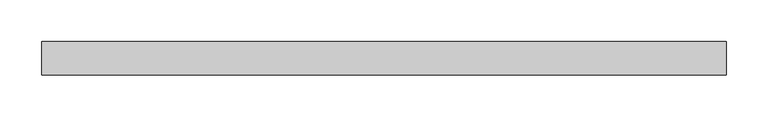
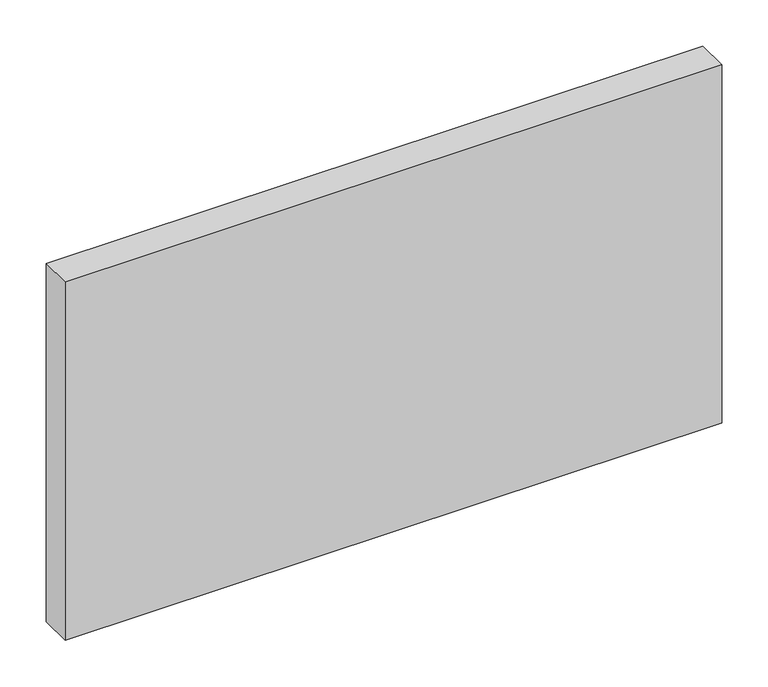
"""IFC4 building model written with IfcOpenShell, lengths in millimetres: plate geometry, Panneau système vide : Epaiss. 4cm."""

from ifc_helpers import new_model, si_unit, origin, origin_with_axes, place, context, project, spatial, polyline, outline, extrude, source, transform, mapped, element, save


def plate_d3a8c1f5(model_context):
    return source(origin(), model_context, "Body", "SweptSolid", [
        extrude(outline(polyline([(408.15, -20.0), (-408.15, -20.0), (-408.15, 20.0), (408.15, 20.0), (408.15, -20.0)])), origin_with_axes(), (0.0, 0.0, 1.0), 471.361482),
    ])


if __name__ == "__main__":
    model = new_model("IFC4")
    model_context = context("Model", 3, world=origin())
    ifc_project = project(units=[si_unit("LENGTHUNIT", "METRE", prefix="MILLI")], contexts=[model_context])
    site = spatial("IfcSite", under=ifc_project)
    building = spatial("IfcBuilding", under=site)
    placement = place(None, origin())
    plate_shape = plate_d3a8c1f5(model_context)
    element("IfcPlate", 1, ObjectType="Panneau système vide : Epaiss. 4cm", at=placement, inside=building, context=model_context, shape_type="MappedRepresentation", body=[
        mapped(plate_shape, transform((0.0, 0.0, 0.0), x_axis=(1.0, 0.0, 0.0), y_axis=(0.0, 1.0, 0.0), z_axis=(0.0, 0.0, 1.0))),
    ])
    save(model, "model.ifc")
